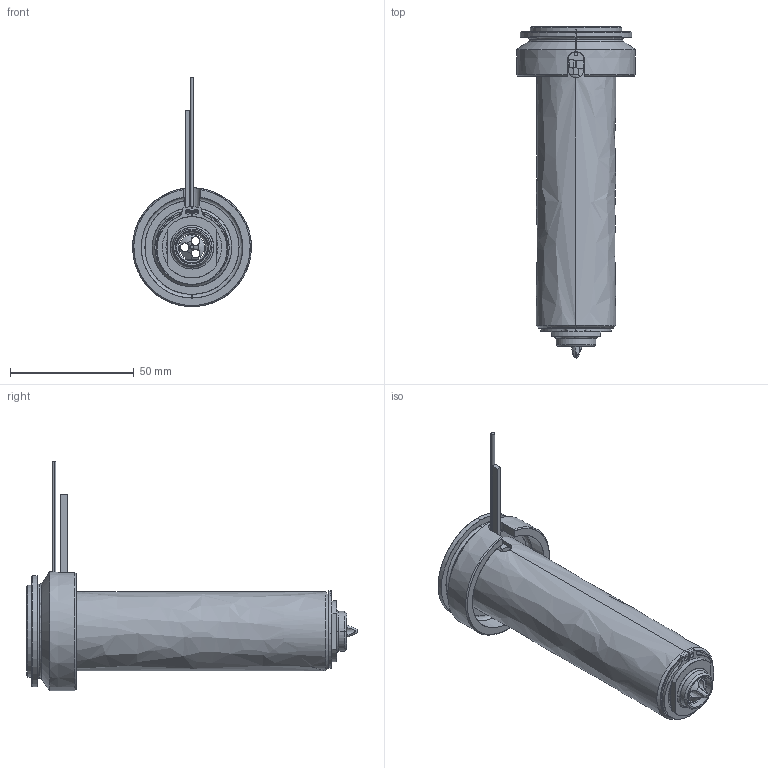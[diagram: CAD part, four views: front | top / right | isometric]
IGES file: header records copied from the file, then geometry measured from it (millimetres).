
Start section: SolidWorks IGES file using analytic representation for surfaces
Global section: file name: C:\Documents and Settings\ws-20\Desktop\TEM\UGEP5003-M-A-0 [Øf-1.36 ØC-12].IGS; native system: SolidWorks 2012; preprocessor: SolidWorks 2012; author: ws-20; date: 120426.100149; units: millimetre
Bounding box: 48 x 134.05 x 92.62 mm (x, y, z)
Surface area: 52822.2 mm2 (no closed solid volume)
Topology: 0 solids, 0 shells, 123 faces, 2332 edges, 2332 vertices
Faces by surface type: revolution 75, bspline 48
